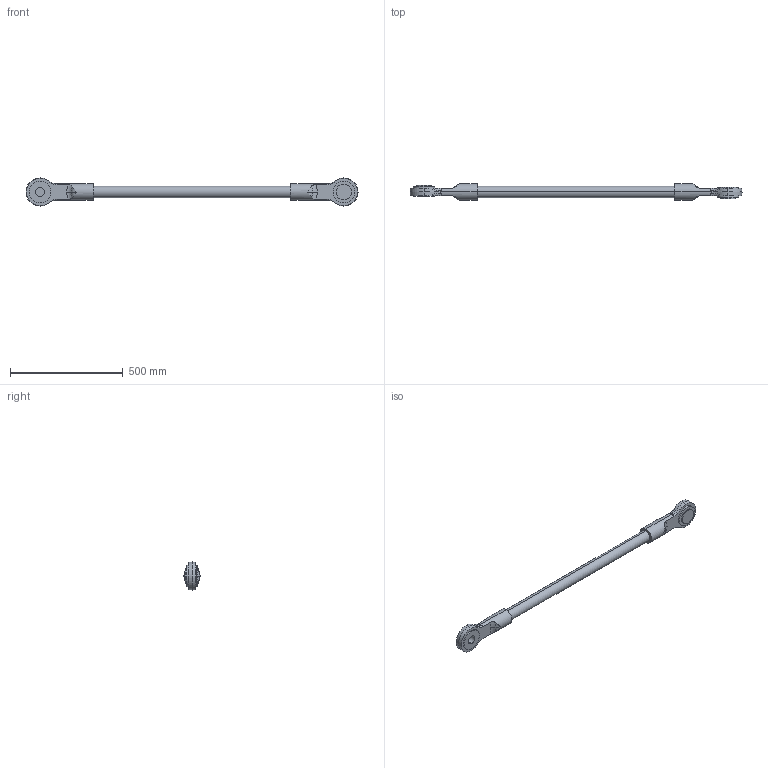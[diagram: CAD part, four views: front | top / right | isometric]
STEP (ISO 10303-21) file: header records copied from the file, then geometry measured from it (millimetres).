
FILE_DESCRIPTION (( 'STEP AP214' ), '1' );
FILE_NAME ('IRB760_445-318_Link H_CAD_rev00.STEP', '2020-02-03T12:36:49', ( '' ), ( '' ), 'SwSTEP 2.0', 'SolidWorks 2018', '' );
FILE_SCHEMA (( 'AUTOMOTIVE_DESIGN' ));
Length unit declared in the file: millimetre
Products named in the file (2): IRB760_445-318_Link H_CAD_rev00
Bounding box: 1475 x 72 x 125 mm (x, y, z)
Volume: 3860748 mm3; surface area: 308436.1 mm2
Topology: 1 solids, 1 shells, 80 faces, 188 edges, 120 vertices
Faces by surface type: bspline 24, cylinder 22, cone 20, plane 14
Entity records: 4493 total; most frequent: CARTESIAN_POINT 1854, ORIENTED_EDGE 376, DIRECTION 334, EDGE_CURVE 188, AXIS2_PLACEMENT_3D 144, VERTEX_POINT 120, EDGE_LOOP 90, CIRCLE 86
